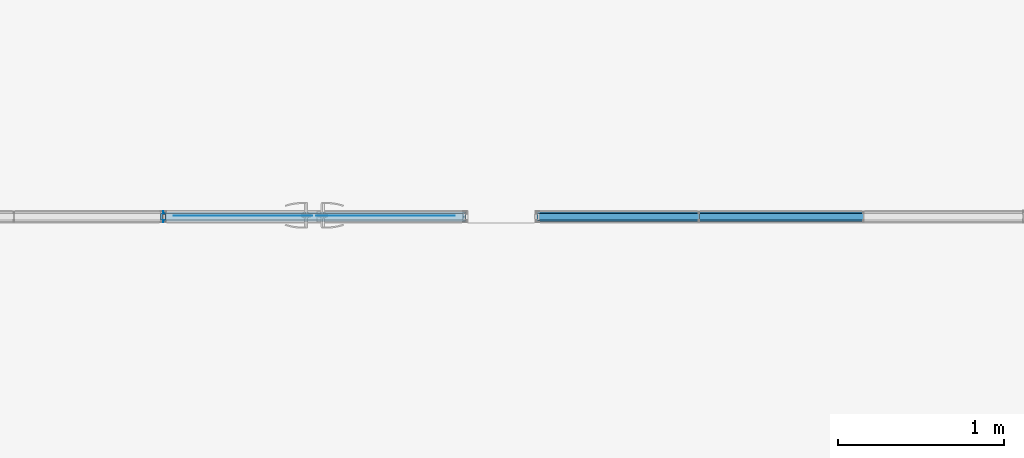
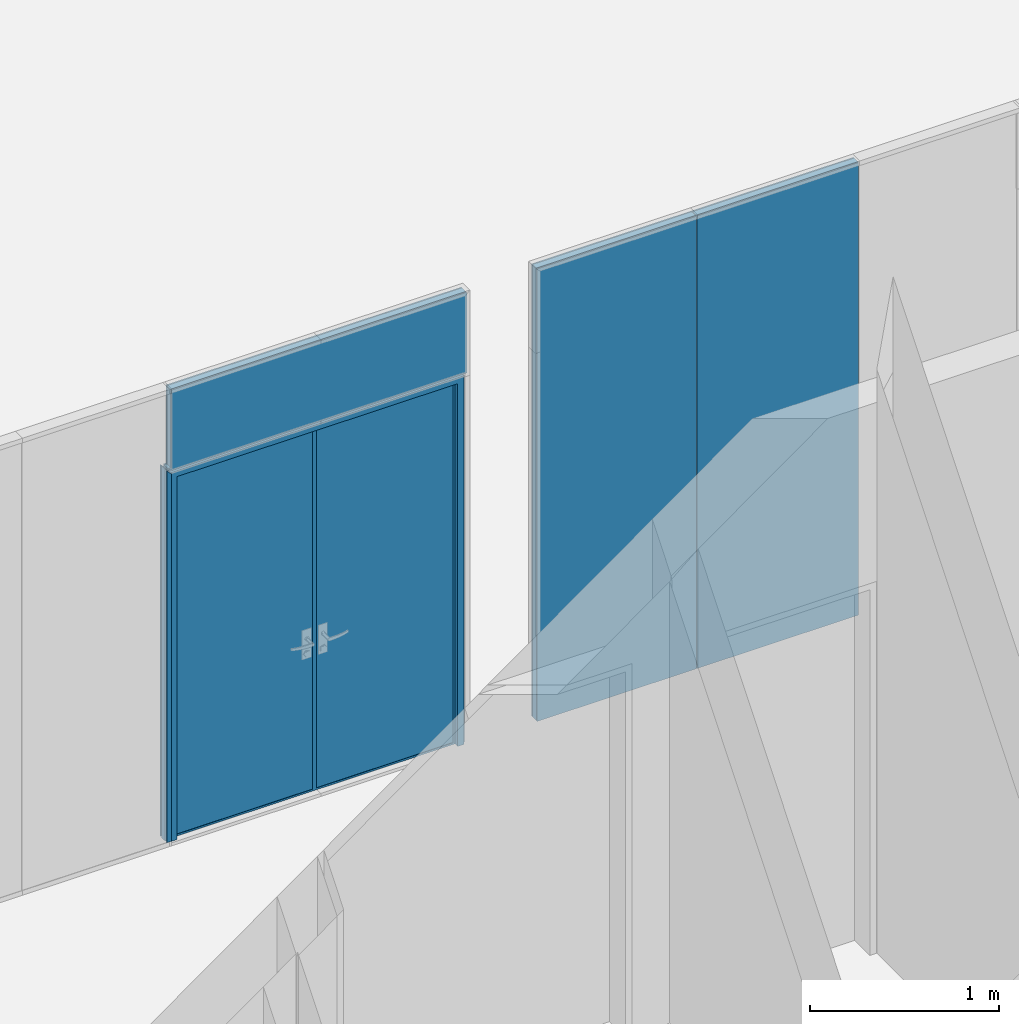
# One storey, part 43 of 62: 10 building element parts, 7 elements without a shape of their own.
"""IFC2X3 building model written with IfcOpenShell, lengths in millimetres."""

import ifcopenshell
import ifcopenshell.guid

model = None  # the IFC model being written
_history = None  # IfcOwnerHistory: only IFC2X3 demands one
_inside = {}  # id of a spatial element -> (the spatial element, [elements in it])
_under = {}  # id of a project, library or spatial element -> (it, [spatial elements below it])
_declared = {}  # id of a project -> (the project, [libraries it declares])
_typed = {}  # id of a type object -> (the type object, [elements of that type])
_made_of = {}  # id of a material, layer set ... -> (it, [elements and type objects made of it])


def new_model(schema):
    """Start an empty IFC model of exactly this schema.

    Asked for "IFC4X3", IfcOpenShell would pick the latest addendum, in which some entities
    have other attributes; the version numbers below select the first issue.
    IFC2X3 requires an IfcOwnerHistory on every rooted entity: one is made here for all.
    """
    global model, _history
    if schema == "IFC4X3":
        model = ifcopenshell.file(schema_version=(4, 3, 0, 0))
    else:
        model = ifcopenshell.file(schema=schema)
    _inside.clear()
    _under.clear()
    _declared.clear()
    _typed.clear()
    _made_of.clear()
    _history = None
    if model.schema == "IFC2X3":
        org = make("IfcOrganization", Name="unknown")
        user = make(
            "IfcPersonAndOrganization",
            ThePerson=make("IfcPerson", FamilyName="unknown"),
            TheOrganization=org,
        )
        app = make(
            "IfcApplication",
            ApplicationDeveloper=org,
            Version="unknown",
            ApplicationFullName="unknown",
            ApplicationIdentifier="unknown",
        )
        _history = make(
            "IfcOwnerHistory",
            OwningUser=user,
            OwningApplication=app,
            ChangeAction="ADDED",
            CreationDate=0,
        )
    return model


def make(cls, **values):
    """One entity of the class cls with the attributes given. An attribute that is None is left unset."""
    return model.create_entity(
        cls, **{name: value for name, value in values.items() if value is not None}
    )


def entity(cls, *values):
    """Any entity or typed value of the class cls, its attributes in the order of the schema. None: left unset."""
    e = model.create_entity(cls)
    for i, value in enumerate(values):
        if value is not None:
            e[i] = value
    return e


def rooted(cls, **values):
    """An entity with a GlobalId (a new one), such as an element, a storey or a relation."""
    return make(cls, GlobalId=ifcopenshell.guid.new(), OwnerHistory=_history, **values)


def si_unit(unit_type, name, prefix=None):
    """IfcSIUnit, for example si_unit("LENGTHUNIT", "METRE", prefix="MILLI")."""
    return make("IfcSIUnit", UnitType=unit_type, Prefix=prefix, Name=name)


def converted_unit(unit_type, name, factor, base, dimensions=None, offset=None):
    """IfcConversionBasedUnit, such as the inch: factor (a typed value) times the base unit."""
    return make(
        "IfcConversionBasedUnit"
        if offset is None
        else "IfcConversionBasedUnitWithOffset",
        ConversionOffset=offset,
        Dimensions=None
        if dimensions is None
        else entity("IfcDimensionalExponents", *dimensions),
        UnitType=unit_type,
        Name=name,
        ConversionFactor=make(
            "IfcMeasureWithUnit", ValueComponent=factor, UnitComponent=base
        ),
    )


def derived_unit(unit_type, elements):
    """IfcDerivedUnit: a product of units, each with its exponent."""
    return make(
        "IfcDerivedUnit",
        Elements=[
            make("IfcDerivedUnitElement", Unit=unit, Exponent=power)
            for unit, power in elements
        ],
        UnitType=unit_type,
    )


def money_unit(currency):
    """IfcMonetaryUnit."""
    return make("IfcMonetaryUnit", Currency=currency)


def assignment(units):
    """IfcUnitAssignment: the units of a project."""
    return None if units is None else make("IfcUnitAssignment", Units=units)


def point(xyz):
    """IfcCartesianPoint."""
    return None if xyz is None else make("IfcCartesianPoint", Coordinates=xyz)


def direction(xyz):
    """IfcDirection."""
    return None if xyz is None else make("IfcDirection", DirectionRatios=xyz)


def frame(location, z_axis=None, x_axis=None):
    """IfcAxis2Placement3D, a coordinate frame: its origin and axes. An axis left out is left unset."""
    return make(
        "IfcAxis2Placement3D",
        Location=point(location),
        Axis=direction(z_axis),
        RefDirection=direction(x_axis),
    )


def origin_with_axes():
    """The frame at (0, 0, 0) with the z axis (0, 0, 1) and the x axis (1, 0, 0) written out."""
    return frame((0.0, 0.0, 0.0), z_axis=(0.0, 0.0, 1.0), x_axis=(1.0, 0.0, 0.0))


def place(relative_to, where):
    """IfcLocalPlacement: puts the frame where relative to a parent placement (None: the world)."""
    return make(
        "IfcLocalPlacement", PlacementRelTo=relative_to, RelativePlacement=where
    )


def context(
    kind, dimensions, precision=None, world=None, true_north=None, identifier=None
):
    """IfcGeometricRepresentationContext, for example the 3D "Model" context."""
    return make(
        "IfcGeometricRepresentationContext",
        ContextIdentifier=identifier,
        ContextType=kind,
        CoordinateSpaceDimension=dimensions,
        Precision=precision,
        WorldCoordinateSystem=world,
        TrueNorth=true_north,
    )


def subcontext(parent, identifier, kind, view, scale=None):
    """IfcGeometricRepresentationSubContext, for example "Body" below "Model"."""
    return make(
        "IfcGeometricRepresentationSubContext",
        ContextIdentifier=identifier,
        ContextType=kind,
        ParentContext=parent,
        TargetScale=scale,
        TargetView=view,
    )


def project(units=None, contexts=None):
    """IfcProject with its units and contexts."""
    return rooted(
        "IfcProject",
        Name="project",
        RepresentationContexts=contexts,
        UnitsInContext=assignment(units),
    )


def spatial(cls, under=None, at=None, **own):
    """A site, building, storey or space (cls), placed at a placement, below another one or the project."""
    s = rooted(cls, ObjectPlacement=at, **own)
    if under is not None:
        _under.setdefault(under.id(), (under, []))[1].append(s)
    return s


def faces_of(points, faces, orient=None, outer=None):
    """IfcFace entities. A face is a list of loops; a loop is a list of indices into points, from 0.

    orient and outer hold one flag for each loop. By default every Orientation is true, the
    first loop of a face is its IfcFaceOuterBound and the others are IfcFaceBound.
    """
    made = []
    for i, loops in enumerate(faces):
        bounds = []
        for j, loop in enumerate(loops):
            is_outer = j == 0 if outer is None else outer[i][j]
            bounds.append(
                make(
                    "IfcFaceOuterBound" if is_outer else "IfcFaceBound",
                    Bound=make("IfcPolyLoop", Polygon=[points[k] for k in loop]),
                    Orientation=True if orient is None else orient[i][j],
                )
            )
        made.append(make("IfcFace", Bounds=bounds))
    return made


def open_shell(faces, orient=None, outer=None):
    """The faces of one IfcOpenShell. surface_model builds it on its shared points."""
    return ("IfcOpenShell", faces, orient, outer)


def faceted_brep(points, faces, orient=None, outer=None, voids=None):
    """IfcFacetedBrep: a solid bounded by flat faces; with voids (closed shells), ...WithVoids."""
    shared = [point(p) for p in points]
    hull = make("IfcClosedShell", CfsFaces=faces_of(shared, faces, orient, outer))
    if voids is None:
        return make("IfcFacetedBrep", Outer=hull)
    return make(
        "IfcFacetedBrepWithVoids",
        Outer=hull,
        Voids=[
            make(cls, CfsFaces=faces_of(shared, fs, o, b)) for cls, fs, o, b in voids
        ],
    )


def surface_model(cls, points, shells):
    """IfcFaceBasedSurfaceModel or IfcShellBasedSurfaceModel (cls): surfaces that need not close."""
    shared = [point(p) for p in points]
    made = [make(c, CfsFaces=faces_of(shared, fs, o, b)) for c, fs, o, b in shells]
    if cls == "IfcFaceBasedSurfaceModel":
        return make(cls, FbsmFaces=made)
    return make(cls, SbsmBoundary=made)


def shape(context_of_items, identifier, shape_type, items):
    """IfcShapeRepresentation: the items that make up one representation, for example the "Body"."""
    return make(
        "IfcShapeRepresentation",
        ContextOfItems=context_of_items,
        RepresentationIdentifier=identifier,
        RepresentationType=shape_type,
        Items=items,
    )


def material(Name=None, Category=None):
    """IfcMaterial."""
    return make("IfcMaterial", Name=Name, Category=Category)


def made_of(thing, what):
    """Note that an element or type object is made of a material, layer set ...; save() writes the relation."""
    if what is not None:
        _made_of.setdefault(what.id(), (what, []))[1].append(thing)
    return thing


def type_object(cls, material=None, **own):
    """A type object (cls), such as IfcWallType, which elements share."""
    return made_of(rooted(cls, **own), material)


def element(
    cls,
    number,
    at=None,
    inside=None,
    cuts=None,
    type_object=None,
    material=None,
    context=None,
    identifier="Body",
    shape_type=None,
    held_by="IfcProductDefinitionShape",
    body=None,
    shapes=None,
    **own,
):
    """One element of the class cls, such as IfcWall. Its Tag is "e" and its number.

    at: its placement. inside: the storey or other place that contains it. cuts: it is an
    opening in that element (IfcRelVoidsElement). A single representation is given by context,
    identifier, shape_type and body (its items); several are given by shapes. held_by: the class
    of the entity that holds the representations. save() writes the other relations.
    """
    e = rooted(cls, Tag="e%d" % number, ObjectPlacement=at, **own)
    if body is not None:
        shapes = [shape(context, identifier, shape_type, body)]
    if shapes is not None:
        e.Representation = make(held_by, Representations=shapes)
    if inside is not None:
        _inside.setdefault(inside.id(), (inside, []))[1].append(e)
    if cuts is not None:
        rooted(
            "IfcRelVoidsElement", RelatingBuildingElement=cuts, RelatedOpeningElement=e
        )
    if type_object is not None:
        _typed.setdefault(type_object.id(), (type_object, []))[1].append(e)
    return made_of(e, material)


def aggregate(whole, parts):
    """IfcRelAggregates: a whole, such as a stair, and the parts it consists of."""
    return rooted("IfcRelAggregates", RelatingObject=whole, RelatedObjects=parts)


def save(model, path):
    """Write the relations noted so far, then the file.

    IfcRelAggregates (storeys below a building ...), IfcRelContainedInSpatialStructure (elements
    in a storey), IfcRelDefinesByType, IfcRelAssociatesMaterial and IfcRelDeclares: one each for
    every whole, place, type object, material and project.
    """
    for whole, parts in _under.values():
        aggregate(whole, parts)
    for where, things in _inside.values():
        rooted(
            "IfcRelContainedInSpatialStructure",
            RelatedElements=things,
            RelatingStructure=where,
        )
    for kind, things in _typed.values():
        rooted("IfcRelDefinesByType", RelatedObjects=things, RelatingType=kind)
    for what, things in _made_of.values():
        rooted("IfcRelAssociatesMaterial", RelatedObjects=things, RelatingMaterial=what)
    for by, libraries in _declared.values():
        rooted("IfcRelDeclares", RelatingContext=by, RelatedDefinitions=libraries)
    model.write(path)


model = new_model("IFC2X3")

# Units and contexts
model_context = context("Model", 3, precision=0.01, world=origin_with_axes(), true_north=direction((0.0, 1.0)))
body_context = subcontext(model_context, "Body", "Model", "MODEL_VIEW")
ifc_project = project(units=[si_unit("LENGTHUNIT", "METRE", prefix="MILLI"), si_unit("AREAUNIT", "SQUARE_METRE"), si_unit("VOLUMEUNIT", "CUBIC_METRE"), converted_unit("PLANEANGLEUNIT", "DEGREE", entity("IfcPlaneAngleMeasure", 0.0174532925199), si_unit("PLANEANGLEUNIT", "RADIAN"), dimensions=[0, 0, 0, 0, 0, 0, 0]), si_unit("SOLIDANGLEUNIT", "STERADIAN"), money_unit("EUR"), converted_unit("TIMEUNIT", "Year", entity("IfcTimeMeasure", 31556926.0), si_unit("TIMEUNIT", "SECOND"), dimensions=[0, 0, 1, 0, 0, 0, 0]), si_unit("MASSUNIT", "GRAM", prefix="KILO"), si_unit("THERMODYNAMICTEMPERATUREUNIT", "DEGREE_CELSIUS"), si_unit("LUMINOUSINTENSITYUNIT", "LUMEN"), si_unit("ENERGYUNIT", "JOULE", prefix="MEGA"), derived_unit("THERMALCONDUCTANCEUNIT", [(si_unit("POWERUNIT", "WATT"), 1), (si_unit("LENGTHUNIT", "METRE"), -1), (si_unit("THERMODYNAMICTEMPERATUREUNIT", "KELVIN"), -1)]), derived_unit("SPECIFICHEATCAPACITYUNIT", [(si_unit("ENERGYUNIT", "JOULE"), 1), (si_unit("MASSUNIT", "GRAM", prefix="KILO"), -1), (si_unit("THERMODYNAMICTEMPERATUREUNIT", "KELVIN"), -1)]), derived_unit("MASSDENSITYUNIT", [(si_unit("MASSUNIT", "GRAM", prefix="KILO"), 1), (si_unit("VOLUMEUNIT", "CUBIC_METRE"), -1)])], contexts=[model_context])

# Site, building, storey
site_placement = place(None, origin_with_axes())
site = spatial("IfcSite", under=ifc_project, at=site_placement, Name="Puškini 31, Narva", CompositionType="ELEMENT")
building_placement = place(site_placement, origin_with_axes())
building = spatial("IfcBuilding", under=site, at=building_placement, Name="Narva Riigigümnaasium", CompositionType="ELEMENT")
storey_placement = place(building_placement, frame((0.0, 0.0, 660.0), z_axis=(0.0, 0.0, 1.0), x_axis=(1.0, 0.0, 0.0)))
storey = spatial("IfcBuildingStorey", under=building, at=storey_placement, Name="2.korrus +0.66", CompositionType="ELEMENT", Elevation=660.0)

# Curtain wall, plates, building element parts, member
curtain_wall_type = type_object("IfcCurtainWallType", Name="Curtain Wall Type", PredefinedType="NOTDEFINED")
curtain_wall_1_placement = place(storey_placement, frame((41241.6, 223837.000007, -1.99739158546e-06), z_axis=(0.0, 0.0, 1.0), x_axis=(1.0, 0.0, 0.0)))
curtain_wall_1 = element("IfcCurtainWall", 1, at=curtain_wall_1_placement, inside=storey, type_object=curtain_wall_type, Name="G-SKLF-53")
plate_type_1 = type_object("IfcPlateType", Name="895 x 2365 x 10", PredefinedType="CURTAIN_PANEL")
plate_1_placement = place(curtain_wall_1_placement, frame((0.0, 0.0, 1200.0), z_axis=(0.0, 0.0, 1.0), x_axis=(-1.0, 0.0, 0.0)))
plate_1 = element("IfcPlate", 2, at=plate_1_placement, type_object=plate_type_1, Name="G-SKLF-53-klaas", ObjectType="CURTAIN_PANEL")
ifc_material_1 = material(Name="ET-04_Alumiinium")
building_element_part_1_placement = place(plate_1_placement, origin_with_axes())
building_element_part_1 = element("IfcBuildingElementPart", 3, at=building_element_part_1_placement, material=ifc_material_1, Name="ET-04_Alumiinium", context=body_context, shape_type="Brep", body=[
    faceted_brep([(-880.399978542, -15.0, -1180.0), (-880.399978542, -29.0, -1180.0), (-880.399978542, -29.0, 1200.0), (-880.399978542, -15.0, 1200.0), (-834.399978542, -15.0, -1180.0), (-834.399978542, -29.0, -1180.0), (-834.399978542, -29.0, 1154.0), (-834.399978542, -15.0, 1154.0)], [[[0, 1, 2, 3]], [[4, 5, 1, 0]], [[1, 5, 6, 2]], [[3, 2, 6, 7]], [[0, 3, 7, 4]], [[7, 6, 5, 4]]]),
    faceted_brep([(910.4, -15.0, 1200.0), (910.4, -29.0, 1200.0), (864.4, -29.0, 1154.0), (864.4, -15.0, 1154.0), (-880.399978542, -15.0, 1200.0), (-880.399978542, -29.0, 1200.0), (-834.399978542, -29.0, 1154.0), (-834.399978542, -15.0, 1154.0)], [[[0, 1, 2, 3]], [[4, 5, 1, 0]], [[1, 5, 6, 2]], [[3, 2, 6, 7]], [[0, 3, 7, 4]], [[7, 6, 5, 4]]]),
    faceted_brep([(910.4, -15.0, -1180.0), (910.4, -29.0, -1180.0), (864.4, -29.0, -1180.0), (864.4, -15.0, -1180.0), (910.4, -15.0, 1200.0), (910.4, -29.0, 1200.0), (864.4, -29.0, 1154.0), (864.4, -15.0, 1154.0)], [[[0, 1, 2, 3]], [[4, 5, 1, 0]], [[1, 5, 6, 2]], [[3, 2, 6, 7]], [[0, 3, 7, 4]], [[7, 6, 5, 4]]]),
    faceted_brep([(-880.399978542, 25.0, -1180.0), (-880.399978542, -15.0, -1180.0), (-880.399978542, -15.0, 1200.0), (-880.399978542, 25.0, 1200.0), (-842.399978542, 25.0, -1180.0), (-842.399978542, -15.0, -1180.0), (-842.399978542, -15.0, 1162.0), (-842.399978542, 25.0, 1162.0)], [[[0, 1, 2, 3]], [[4, 5, 1, 0]], [[1, 5, 6, 2]], [[3, 2, 6, 7]], [[0, 3, 7, 4]], [[7, 6, 5, 4]]]),
    faceted_brep([(910.4, 25.0, 1200.0), (910.4, -15.0, 1200.0), (872.4, -15.0, 1162.0), (872.4, 25.0, 1162.0), (-880.399978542, 25.0, 1200.0), (-880.399978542, -15.0, 1200.0), (-842.399978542, -15.0, 1162.0), (-842.399978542, 25.0, 1162.0)], [[[0, 1, 2, 3]], [[4, 5, 1, 0]], [[1, 5, 6, 2]], [[3, 2, 6, 7]], [[0, 3, 7, 4]], [[7, 6, 5, 4]]]),
    faceted_brep([(910.4, 25.0, -1180.0), (910.4, -15.0, -1180.0), (872.4, -15.0, -1180.0), (872.4, 25.0, -1180.0), (910.4, 25.0, 1200.0), (910.4, -15.0, 1200.0), (872.4, -15.0, 1162.0), (872.4, 25.0, 1162.0)], [[[0, 1, 2, 3]], [[4, 5, 1, 0]], [[1, 5, 6, 2]], [[3, 2, 6, 7]], [[0, 3, 7, 4]], [[7, 6, 5, 4]]]),
    faceted_brep([(-895.399978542, 5.00000000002, -1180.0), (-895.399978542, -4.99999999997, -1180.0), (-895.399978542, -4.99999999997, 1185.0), (-895.399978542, 5.00000000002, 1185.0), (-880.399978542, 5.00000000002, -1180.0), (-880.399978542, -4.99999999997, -1180.0), (-880.399978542, -4.99999999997, 1200.0), (-880.399978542, 5.00000000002, 1200.0)], [[[0, 1, 2, 3]], [[4, 5, 1, 0]], [[1, 5, 6, 2]], [[3, 2, 6, 7]], [[0, 3, 7, 4]], [[7, 6, 5, 4]]]),
    faceted_brep([(-880.399978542, 5.00000000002, 1200.0), (-880.399978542, -4.99999999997, 1200.0), (910.4, -4.99999999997, 1200.0), (910.4, 5.00000000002, 1200.0), (-895.399978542, 5.00000000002, 1185.0), (-895.399978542, -4.99999999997, 1185.0), (895.4, -4.99999999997, 1185.0), (895.4, 5.00000000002, 1185.0)], [[[0, 1, 2, 3]], [[4, 5, 1, 0]], [[1, 5, 6, 2]], [[3, 2, 6, 7]], [[0, 3, 7, 4]], [[7, 6, 5, 4]]]),
    faceted_brep([(910.4, 5.00000000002, 1200.0), (910.4, -4.99999999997, 1200.0), (910.4, -4.99999999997, -1180.0), (910.4, 5.00000000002, -1180.0), (895.4, 5.00000000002, 1185.0), (895.4, -4.99999999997, 1185.0), (895.4, -4.99999999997, -1180.0), (895.4, 5.00000000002, -1180.0)], [[[0, 1, 2, 3]], [[4, 5, 1, 0]], [[1, 5, 6, 2]], [[3, 2, 6, 7]], [[0, 3, 7, 4]], [[7, 6, 5, 4]]]),
    faceted_brep([(860.4, -15.0, -1168.0), (860.4, -15.0, 1150.0), (860.4, -2.99999999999, 1150.0), (860.4, -2.99999999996, -1168.0), (872.4, -15.0, -1180.0), (872.4, -15.0, 1162.0), (872.4, -2.99999999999, 1162.0), (872.4, -2.99999999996, -1180.0)], [[[0, 1, 2, 3]], [[0, 4, 5, 1]], [[1, 5, 6, 2]], [[3, 2, 6, 7]], [[4, 0, 3, 7]], [[5, 4, 7, 6]]]),
    faceted_brep([(15.0000107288, -15.0, -1180.0), (15.0000107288, -15.0, 1162.0), (15.0000107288, -2.99999999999, 1162.0), (15.0000107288, -2.99999999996, -1180.0), (27.0000107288, -15.0, -1168.0), (27.0000107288, -15.0, 1150.0), (27.0000107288, -2.99999999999, 1150.0), (27.0000107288, -2.99999999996, -1168.0)], [[[0, 1, 2, 3]], [[0, 4, 5, 1]], [[1, 5, 6, 2]], [[3, 2, 6, 7]], [[4, 0, 3, 7]], [[5, 4, 7, 6]]]),
    faceted_brep([(15.0000107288, -15.0, -1180.0), (27.0000107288, -15.0, -1168.0), (27.0000107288, -2.99999999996, -1168.0), (15.0000107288, -2.99999999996, -1180.0), (872.4, -15.0, -1180.0), (860.4, -15.0, -1168.0), (860.4, -2.99999999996, -1168.0), (872.4, -2.99999999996, -1180.0)], [[[0, 1, 2, 3]], [[0, 4, 5, 1]], [[1, 5, 6, 2]], [[3, 2, 6, 7]], [[4, 0, 3, 7]], [[5, 4, 7, 6]]]),
    faceted_brep([(872.4, -15.0, 1162.0), (860.4, -15.0, 1150.0), (860.4, -2.99999999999, 1150.0), (872.4, -2.99999999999, 1162.0), (15.0000107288, -15.0, 1162.0), (27.0000107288, -15.0, 1150.0), (27.0000107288, -2.99999999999, 1150.0), (15.0000107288, -2.99999999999, 1162.0)], [[[0, 1, 2, 3]], [[0, 4, 5, 1]], [[1, 5, 6, 2]], [[3, 2, 6, 7]], [[4, 0, 3, 7]], [[5, 4, 7, 6]]]),
    faceted_brep([(3.00001072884, -15.0, -1168.0), (3.00001072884, -15.0, 1150.0), (3.00001072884, -2.99999999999, 1150.0), (3.00001072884, -2.99999999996, -1168.0), (15.0000107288, -15.0, -1180.0), (15.0000107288, -15.0, 1162.0), (15.0000107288, -2.99999999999, 1162.0), (15.0000107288, -2.99999999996, -1180.0)], [[[0, 1, 2, 3]], [[0, 4, 5, 1]], [[1, 5, 6, 2]], [[3, 2, 6, 7]], [[4, 0, 3, 7]], [[5, 4, 7, 6]]]),
    faceted_brep([(-842.399978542, -15.0, -1180.0), (-842.399978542, -15.0, 1162.0), (-842.399978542, -2.99999999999, 1162.0), (-842.399978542, -2.99999999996, -1180.0), (-830.399978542, -15.0, -1168.0), (-830.399978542, -15.0, 1150.0), (-830.399978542, -2.99999999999, 1150.0), (-830.399978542, -2.99999999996, -1168.0)], [[[0, 1, 2, 3]], [[0, 4, 5, 1]], [[1, 5, 6, 2]], [[3, 2, 6, 7]], [[4, 0, 3, 7]], [[5, 4, 7, 6]]]),
    faceted_brep([(-842.399978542, -15.0, -1180.0), (-830.399978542, -15.0, -1168.0), (-830.399978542, -2.99999999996, -1168.0), (-842.399978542, -2.99999999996, -1180.0), (15.0000107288, -15.0, -1180.0), (3.00001072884, -15.0, -1168.0), (3.00001072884, -2.99999999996, -1168.0), (15.0000107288, -2.99999999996, -1180.0)], [[[0, 1, 2, 3]], [[0, 4, 5, 1]], [[1, 5, 6, 2]], [[3, 2, 6, 7]], [[4, 0, 3, 7]], [[5, 4, 7, 6]]]),
    faceted_brep([(15.0000107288, -15.0, 1162.0), (3.00001072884, -15.0, 1150.0), (3.00001072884, -2.99999999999, 1150.0), (15.0000107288, -2.99999999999, 1162.0), (-842.399978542, -15.0, 1162.0), (-830.399978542, -15.0, 1150.0), (-830.399978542, -2.99999999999, 1150.0), (-842.399978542, -2.99999999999, 1162.0)], [[[0, 1, 2, 3]], [[0, 4, 5, 1]], [[1, 5, 6, 2]], [[3, 2, 6, 7]], [[4, 0, 3, 7]], [[5, 4, 7, 6]]]),
])
ifc_material_2 = material(Name="VKR-05_Klaas")
building_element_part_2_placement = place(plate_1_placement, origin_with_axes())
building_element_part_2 = element("IfcBuildingElementPart", 4, at=building_element_part_2_placement, material=ifc_material_2, Name="VKR-05_Klaas", context=body_context, shape_type="SurfaceModel", body=[
    surface_model("IfcShellBasedSurfaceModel", [(860.4, -4.99999999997, -1168.0), (860.4, -4.99999999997, 1150.0), (27.0000107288, -4.99999999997, 1150.0), (27.0000107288, -4.99999999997, -1168.0)], [open_shell([[[0, 1, 2, 3]]])]),
    surface_model("IfcShellBasedSurfaceModel", [(3.00001072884, -4.99999999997, -1168.0), (3.00001072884, -4.99999999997, 1150.0), (-830.399978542, -4.99999999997, 1150.0), (-830.399978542, -4.99999999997, -1168.0)], [open_shell([[[0, 1, 2, 3]]])]),
])
aggregate(plate_1, [building_element_part_1, building_element_part_2])
plate_type_2 = type_object("IfcPlateType", Name="906 x 505 x 0", PredefinedType="CURTAIN_PANEL")
plate_2_placement = place(curtain_wall_1_placement, frame((-418.545456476, 0.0, 2166.36363362), z_axis=(0.0, 0.0, 1.0), x_axis=(-1.0, 0.0, 0.0)))
plate_2 = element("IfcPlate", 5, at=plate_2_placement, type_object=plate_type_2, Name="G-SKLF-53-klaas", ObjectType="CURTAIN_PANEL")
building_element_part_3_placement = place(plate_2_placement, origin_with_axes())
building_element_part_3 = element("IfcBuildingElementPart", 6, at=building_element_part_3_placement, material=ifc_material_2, Name="VKR-05_Klaas", context=body_context, shape_type="Brep", body=[
    faceted_brep([(-1313.94545684, 29.0, 768.63636906), (-1313.94545684, 20.0, 768.63636906), (487.854534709, 20.0, 768.63636906), (487.854534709, 29.0, 768.63636906), (-1313.94545684, 29.0, 248.636361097), (-1313.94545684, 20.0, 248.636361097), (504.854504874, 20.0, 248.636361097), (504.854548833, 20.0, 263.636352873), (487.854534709, 20.0, 263.636352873), (487.854534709, 29.0, 263.636352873), (504.854548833, 29.0, 263.636352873), (504.854504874, 29.0, 248.636361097)], [[[0, 1, 2, 3]], [[4, 5, 1, 0]], [[1, 5, 6, 7, 8, 2]], [[3, 2, 8, 9]], [[0, 3, 9, 10, 11, 4]], [[11, 6, 5, 4]], [[10, 7, 6, 11]], [[9, 8, 7, 10]]]),
    faceted_brep([(-1313.94545684, -20.0, 768.63636906), (-1313.94545684, -29.0, 768.63636906), (487.854534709, -29.0, 768.63636906), (487.854534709, -20.0, 768.63636906), (-1313.94545684, -20.0, 248.636361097), (-1313.94545684, -29.0, 248.636361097), (504.854504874, -29.0, 248.636361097), (504.854548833, -29.0, 263.636352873), (487.854534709, -29.0, 263.636352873), (487.854534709, -20.0, 263.636352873), (504.854548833, -20.0, 263.636352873), (504.854504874, -20.0, 248.636361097)], [[[0, 1, 2, 3]], [[4, 5, 1, 0]], [[1, 5, 6, 7, 8, 2]], [[3, 2, 8, 9]], [[0, 3, 9, 10, 11, 4]], [[11, 6, 5, 4]], [[10, 7, 6, 11]], [[9, 8, 7, 10]]]),
])
ifc_material_3 = material(Name="VKR-06_Õhkvahe")
building_element_part_4_placement = place(plate_2_placement, origin_with_axes())
building_element_part_4 = element("IfcBuildingElementPart", 7, at=building_element_part_4_placement, material=ifc_material_3, Name="VKR-06_Õhkvahe", context=body_context, shape_type="Brep", body=[
    faceted_brep([(-1313.94545684, 20.0, 768.63636906), (-1313.94545684, -20.0, 768.63636906), (487.854534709, -20.0, 768.63636906), (487.854534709, 20.0, 768.63636906), (-1313.94545684, 20.0, 248.636361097), (-1313.94545684, -20.0, 248.636361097), (504.854504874, -20.0, 248.636361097), (504.854548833, -20.0, 263.636352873), (487.854534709, -20.0, 263.636352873), (487.854534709, 20.0, 263.636352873), (504.854548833, 20.0, 263.636352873), (504.854504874, 20.0, 248.636361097)], [[[0, 1, 2, 3]], [[4, 5, 1, 0]], [[1, 5, 6, 7, 8, 2]], [[3, 2, 8, 9]], [[0, 3, 9, 10, 11, 4]], [[11, 6, 5, 4]], [[10, 7, 6, 11]], [[9, 8, 7, 10]]]),
])
aggregate(plate_2, [building_element_part_3, building_element_part_4])
member_type = type_object("IfcMemberType", Name="30 x -27", PredefinedType="MULLION")
member_placement = place(curtain_wall_1_placement, frame((-910.4, 0.0, 0.0), z_axis=(0.0, 0.0, 1.0), x_axis=(-1.0, 0.0, 0.0)))
member = element("IfcMember", 8, at=member_placement, type_object=member_type, Name="G-SKLF-53-raam", ObjectType="MULLION")
aggregate(curtain_wall_1, [member, plate_1, plate_2])
ifc_material_4 = material(Name="Klaasvill")
building_element_part_5_placement = place(member_placement, origin_with_axes())
building_element_part_5 = element("IfcBuildingElementPart", 9, at=building_element_part_5_placement, material=ifc_material_4, Name="Klaasvill", context=body_context, shape_type="Brep", body=[
    faceted_brep([(13.8499999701, -20.000000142, 30.0000193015), (7.49999990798, -20.000000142, 30.0000193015), (7.49999990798, -20.000000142, 2407.49999991), (13.8499999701, -20.000000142, 2413.84999997), (13.8499999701, -34.0161444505, 30.0000193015), (7.49999990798, -34.0161444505, 30.0000193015), (7.49999990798, -34.0161444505, 2407.49999991), (13.8499999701, -34.0161444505, 2413.84999997)], [[[0, 1, 2, 3]], [[1, 0, 4, 5]], [[1, 5, 6, 2]], [[2, 6, 7, 3]], [[4, 0, 3, 7]], [[5, 4, 7, 6]]]),
    faceted_brep([(25.004489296, -32.0307503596, 30.0000193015), (24.987414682, -34.0161444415, 30.0000193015), (24.987414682, -34.0161444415, 2424.98741468), (25.004489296, -32.0307503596, 2425.0044893), (25.742237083, -31.2930025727, 30.0000193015), (26.7500193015, -31.0229681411, 30.0000193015), (27.75780152, -31.2930025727, 30.0000193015), (28.4955493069, -32.0307503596, 30.0000193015), (28.7655837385, -33.0385325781, 30.0000193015), (28.5126239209, -34.0161444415, 30.0000193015), (28.5126239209, -34.0161444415, 2428.51262392), (28.7655837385, -33.0385325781, 2428.76558374), (28.4955493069, -32.0307503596, 2428.49554931), (27.75780152, -31.2930025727, 2427.75780152), (26.7500193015, -31.0229681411, 2426.7500193), (25.742237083, -31.2930025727, 2425.74223708)], [[[0, 1, 2, 3]], [[1, 0, 4, 5, 6, 7, 8, 9]], [[1, 9, 10, 2]], [[2, 10, 11, 12, 13, 14, 15, 3]], [[4, 0, 3, 15]], [[5, 4, 15, 14]], [[6, 5, 14, 13]], [[7, 6, 13, 12]], [[8, 7, 12, 11]], [[9, 8, 11, 10]]]),
    faceted_brep([(7.49999990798, 34.0161445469, 30.0000193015), (7.49999990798, 19.9999997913, 30.0000193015), (7.49999990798, 19.9999997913, 2407.49999991), (7.49999990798, 34.0161445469, 2407.49999991), (13.8499999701, 34.0161445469, 30.0000193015), (13.8499999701, 19.9999997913, 30.0000193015), (13.8499999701, 19.9999997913, 2413.84999997), (13.8499999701, 34.0161445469, 2413.84999997)], [[[0, 1, 2, 3]], [[1, 0, 4, 5]], [[1, 5, 6, 2]], [[2, 6, 7, 3]], [[4, 0, 3, 7]], [[5, 4, 7, 6]]]),
    faceted_brep([(24.987414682, 34.0161444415, 30.0000193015), (25.004489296, 32.0307503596, 30.0000193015), (25.004489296, 32.0307503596, 2425.0044893), (24.987414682, 34.0161444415, 2424.98741468), (28.5126239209, 34.0161444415, 30.0000193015), (28.7655837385, 33.0385325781, 30.0000193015), (28.4955493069, 32.0307503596, 30.0000193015), (27.75780152, 31.2930025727, 30.0000193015), (26.7500193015, 31.0229681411, 30.0000193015), (25.742237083, 31.2930025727, 30.0000193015), (25.742237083, 31.2930025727, 2425.74223708), (26.7500193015, 31.0229681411, 2426.7500193), (27.75780152, 31.2930025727, 2427.75780152), (28.4955493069, 32.0307503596, 2428.49554931), (28.7655837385, 33.0385325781, 2428.76558374), (28.5126239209, 34.0161444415, 2428.51262392)], [[[0, 1, 2, 3]], [[1, 0, 4, 5, 6, 7, 8, 9]], [[1, 9, 10, 2]], [[2, 10, 11, 12, 13, 14, 15, 3]], [[4, 0, 3, 15]], [[5, 4, 15, 14]], [[6, 5, 14, 13]], [[7, 6, 13, 12]], [[8, 7, 12, 11]], [[9, 8, 11, 10]]]),
])
ifc_material_5 = material(Name="Teras RAL7012")
building_element_part_6_placement = place(member_placement, origin_with_axes())
building_element_part_6 = element("IfcBuildingElementPart", 10, at=building_element_part_6_placement, material=ifc_material_5, Name="Teras RAL7012", context=body_context, shape_type="Brep", body=[
    faceted_brep([(29.5999996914, 17.0000000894, 30.0000193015), (0.0, 17.0000000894, 30.0000193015), (0.0, 17.0000000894, 2400.0), (29.5999996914, 17.0000000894, 2429.59999969), (29.5999996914, -17.0000000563, 30.0000193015), (0.0, -17.0000000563, 30.0000193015), (1.99999991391, -15.0000001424, 30.0000193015), (18.7999996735, -15.0000001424, 30.0000193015), (18.7999996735, 15.0000001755, 30.0000193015), (1.99999991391, 15.0000001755, 30.0000193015), (0.0, -17.0000000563, 2400.0), (29.5999996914, -17.0000000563, 2429.59999969), (1.99999991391, -15.0000001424, 2401.99999991), (1.99999991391, 15.0000001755, 2401.99999991), (18.7999996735, 15.0000001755, 2418.79999967), (18.7999996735, -15.0000001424, 2418.79999967)], [[[0, 1, 2, 3]], [[1, 0, 4, 5], [6, 7, 8, 9]], [[1, 5, 10, 2]], [[2, 10, 11, 3], [12, 13, 14, 15]], [[4, 0, 3, 11]], [[5, 4, 11, 10]], [[7, 6, 12, 15]], [[8, 7, 15, 14]], [[9, 8, 14, 13]], [[6, 9, 13, 12]]]),
    faceted_brep([(29.5999996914, -17.0000000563, 30.0000193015), (29.5999996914, -17.0000000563, 2429.59999969), (30.0000193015, -17.0, 2430.0000193), (30.0000193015, -17.0, 30.0000193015), (0.0, -17.0, 30.0000193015), (0.0, -17.0, 2400.0), (30.0000193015, -20.0, 2430.0000193), (0.0, -37.0, 2400.0), (30.0000193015, -37.0, 2430.0000193), (30.0000193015, -34.0161444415, 2430.0000193), (28.5126239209, -34.0161444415, 2428.51262392), (24.987414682, -34.0161444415, 2424.98741468), (13.8499999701, -34.0161444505, 2413.84999997), (7.49999999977, -34.0161444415, 2407.5), (7.49999999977, -20.0, 2407.5), (13.8499999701, -20.000000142, 2413.84999997), (30.0000193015, -20.0, 30.0000193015), (13.8499999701, -20.000000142, 30.0000193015), (7.49999999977, -20.0, 30.0000193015), (7.49999999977, -34.0161444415, 30.0000193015), (13.8499999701, -34.0161444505, 30.0000193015), (24.987414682, -34.0161444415, 30.0000193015), (28.5126239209, -34.0161444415, 30.0000193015), (30.0000193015, -34.0161444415, 30.0000193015), (30.0000193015, -37.0, 30.0000193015), (0.0, -37.0, 30.0000193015)], [[[0, 1, 2, 3]], [[1, 0, 4, 5]], [[6, 2, 1, 5, 7, 8, 9, 10, 11, 12, 13, 14, 15]], [[3, 2, 6, 16]], [[3, 16, 17, 18, 19, 20, 21, 22, 23, 24, 25, 4, 0]], [[5, 4, 25, 7]], [[24, 8, 7, 25]], [[23, 9, 8, 24]], [[9, 23, 22, 10]], [[21, 11, 10, 22]], [[20, 12, 11, 21]], [[19, 13, 12, 20]], [[18, 14, 13, 19]], [[17, 15, 14, 18]], [[16, 6, 15, 17]]]),
    faceted_brep([(30.0000193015, 34.0161444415, 30.0000193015), (30.0000193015, 34.0161444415, 2430.0000193), (28.5126239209, 34.0161444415, 2428.51262392), (28.5126239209, 34.0161444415, 30.0000193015), (30.0000193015, 37.0, 30.0000193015), (30.0000193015, 37.0, 2430.0000193), (0.0, 37.0, 2400.0), (0.0, 17.0, 2400.0), (29.5999996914, 17.0000000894, 2429.59999969), (30.0000193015, 17.0, 2430.0000193), (30.0000193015, 20.0, 2430.0000193), (13.8499999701, 19.9999997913, 2413.84999997), (7.49999999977, 20.0, 2407.5), (7.49999999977, 34.0161444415, 2407.5), (13.8499999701, 34.0161445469, 2413.84999997), (24.987414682, 34.0161444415, 2424.98741468), (24.987414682, 34.0161444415, 30.0000193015), (13.8499999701, 34.0161445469, 30.0000193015), (7.49999999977, 34.0161444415, 30.0000193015), (7.49999999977, 20.0, 30.0000193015), (13.8499999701, 19.9999997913, 30.0000193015), (30.0000193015, 20.0, 30.0000193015), (30.0000193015, 17.0, 30.0000193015), (29.5999996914, 17.0000000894, 30.0000193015), (0.0, 17.0, 30.0000193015), (0.0, 37.0, 30.0000193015)], [[[0, 1, 2, 3]], [[4, 5, 1, 0]], [[1, 5, 6, 7, 8, 9, 10, 11, 12, 13, 14, 15, 2]], [[3, 2, 15, 16]], [[4, 0, 3, 16, 17, 18, 19, 20, 21, 22, 23, 24, 25]], [[5, 4, 25, 6]], [[6, 25, 24, 7]], [[23, 8, 7, 24]], [[22, 9, 8, 23]], [[21, 10, 9, 22]], [[10, 21, 20, 11]], [[19, 12, 11, 20]], [[18, 13, 12, 19]], [[17, 14, 13, 18]], [[16, 15, 14, 17]]]),
])
aggregate(member, [building_element_part_5, building_element_part_6])

# Curtain wall, plates, building element parts
curtain_wall_2_placement = place(storey_placement, frame((45089.2571373, 223837.000216, -1.99739158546e-06), z_axis=(0.0, 0.0, 1.0), x_axis=(1.0, 0.0, 0.0)))
curtain_wall_2 = element("IfcCurtainWall", 11, at=curtain_wall_2_placement, inside=storey, type_object=curtain_wall_type, Name="G-SKLF-52")
plate_type_3 = type_object("IfcPlateType", Name="987 x 535 x 10", PredefinedType="CURTAIN_PANEL")
plate_3_placement = place(curtain_wall_2_placement, frame((-1052.85714373, 0.0, 1783.33331435), z_axis=(0.0, 0.0, 1.0), x_axis=(1.0, 0.0, 0.0)))
plate_3 = element("IfcPlate", 12, at=plate_3_placement, type_object=plate_type_3, Name="G-SKLF-52-klaas", ObjectType="CURTAIN_PANEL")
building_element_part_7_placement = place(plate_3_placement, origin_with_axes())
building_element_part_7 = element("IfcBuildingElementPart", 13, at=building_element_part_7_placement, material=ifc_material_2, Name="VKR-05_Klaas", context=body_context, shape_type="Brep", body=[
    faceted_brep([(-493.299994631, -29.0, 1151.66663718), (493.300005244, -29.0, 1151.66663718), (493.300005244, -20.0, 1151.66663718), (-493.299994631, -20.0, 1151.66663718), (-493.299994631, -29.0, -1768.33332283), (493.300005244, -29.0, -1768.33332283), (493.300005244, -20.0, -1768.33332283), (-493.299994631, -20.0, -1768.33332283)], [[[0, 1, 2, 3]], [[0, 4, 5, 1]], [[1, 5, 6, 2]], [[3, 2, 6, 7]], [[4, 0, 3, 7]], [[5, 4, 7, 6]]]),
    faceted_brep([(-493.299994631, 20.0, 1151.66663718), (493.300005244, 20.0, 1151.66663718), (493.300005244, 29.0, 1151.66663718), (-493.299994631, 29.0, 1151.66663718), (-493.299994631, 20.0, -1768.33332283), (493.300005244, 20.0, -1768.33332283), (493.300005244, 29.0, -1768.33332283), (-493.299994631, 29.0, -1768.33332283)], [[[0, 1, 2, 3]], [[0, 4, 5, 1]], [[1, 5, 6, 2]], [[3, 2, 6, 7]], [[4, 0, 3, 7]], [[5, 4, 7, 6]]]),
])
building_element_part_8_placement = place(plate_3_placement, origin_with_axes())
building_element_part_8 = element("IfcBuildingElementPart", 14, at=building_element_part_8_placement, material=ifc_material_3, Name="VKR-06_Õhkvahe", context=body_context, shape_type="Brep", body=[
    faceted_brep([(-493.299994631, -20.0, 1151.66663718), (493.300005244, -20.0, 1151.66663718), (493.300005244, 20.0, 1151.66663718), (-493.299994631, 20.0, 1151.66663718), (-493.299994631, -20.0, -1768.33332283), (493.300005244, -20.0, -1768.33332283), (493.300005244, 20.0, -1768.33332283), (-493.299994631, 20.0, -1768.33332283)], [[[0, 1, 2, 3]], [[0, 4, 5, 1]], [[1, 5, 6, 2]], [[3, 2, 6, 7]], [[4, 0, 3, 7]], [[5, 4, 7, 6]]]),
])
aggregate(plate_3, [building_element_part_7, building_element_part_8])
plate_type_4 = type_object("IfcPlateType", Name="973 x 535 x 10", PredefinedType="CURTAIN_PANEL")
plate_4_placement = place(curtain_wall_2_placement, frame((-2042.4571618, 0.0, 1783.33331023), z_axis=(0.0, 0.0, 1.0), x_axis=(1.0, 0.0, 0.0)))
plate_4 = element("IfcPlate", 15, at=plate_4_placement, type_object=plate_type_4, Name="G-SKLF-52-klaas", ObjectType="CURTAIN_PANEL")
aggregate(curtain_wall_2, [plate_3, plate_4])
building_element_part_9_placement = place(plate_4_placement, origin_with_axes())
building_element_part_9 = element("IfcBuildingElementPart", 16, at=building_element_part_9_placement, material=ifc_material_2, Name="VKR-05_Klaas", context=body_context, shape_type="Brep", body=[
    faceted_brep([(-479.800023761, -29.0, 1151.66659734), (493.300023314, -29.0, 1151.6666413), (493.300023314, -20.0, 1151.6666413), (-479.800023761, -20.0, 1151.66659734), (-479.800023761, -29.0, -1768.33331871), (493.300023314, -29.0, -1768.33331871), (493.300023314, -20.0, -1768.33331871), (-479.800023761, -20.0, -1768.33331871)], [[[0, 1, 2, 3]], [[0, 4, 5, 1]], [[1, 5, 6, 2]], [[3, 2, 6, 7]], [[4, 0, 3, 7]], [[5, 4, 7, 6]]]),
    faceted_brep([(-479.800023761, 20.0, 1151.66659734), (493.300023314, 20.0, 1151.6666413), (493.300023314, 29.0, 1151.6666413), (-479.800023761, 29.0, 1151.66659734), (-479.800023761, 20.0, -1768.33331871), (493.300023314, 20.0, -1768.33331871), (493.300023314, 29.0, -1768.33331871), (-479.800023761, 29.0, -1768.33331871)], [[[0, 1, 2, 3]], [[0, 4, 5, 1]], [[1, 5, 6, 2]], [[3, 2, 6, 7]], [[4, 0, 3, 7]], [[5, 4, 7, 6]]]),
])
building_element_part_10_placement = place(plate_4_placement, origin_with_axes())
building_element_part_10 = element("IfcBuildingElementPart", 17, at=building_element_part_10_placement, material=ifc_material_3, Name="VKR-06_Õhkvahe", context=body_context, shape_type="Brep", body=[
    faceted_brep([(-479.800023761, -20.0, 1151.66659734), (493.300023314, -20.0, 1151.6666413), (493.300023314, 20.0, 1151.6666413), (-479.800023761, 20.0, 1151.66659734), (-479.800023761, -20.0, -1768.33331871), (493.300023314, -20.0, -1768.33331871), (493.300023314, 20.0, -1768.33331871), (-479.800023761, 20.0, -1768.33331871)], [[[0, 1, 2, 3]], [[0, 4, 5, 1]], [[1, 5, 6, 2]], [[3, 2, 6, 7]], [[4, 0, 3, 7]], [[5, 4, 7, 6]]]),
])
aggregate(plate_4, [building_element_part_9, building_element_part_10])

save(model, "model.ifc")
